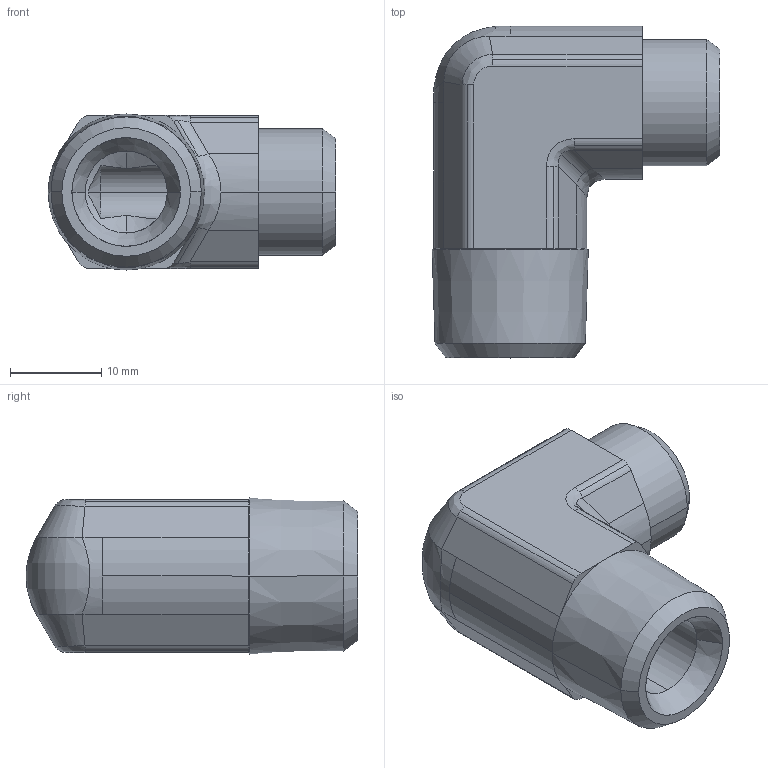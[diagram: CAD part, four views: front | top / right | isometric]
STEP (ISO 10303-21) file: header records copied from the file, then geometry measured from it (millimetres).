
FILE_DESCRIPTION((''),'2;1');
FILE_NAME('102026.stp','2007-10-30T16:36:33',(''),(''),'AutoCAD STEP 2000i','AutoCAD 2000i',', , ');
FILE_SCHEMA(('CONFIG_CONTROL_DESIGN'));
Length unit declared in the file: millimetre
Products named in the file (2): 102026.0; 3090#0
Assembly tree (1 placements, depth 2):
  102026.0
    3090#0
Bounding box: 31.56 x 36.4 x 17.12 mm (x, y, z)
Volume: 8253.9 mm3; surface area: 4185 mm2
Topology: 1 solids, 1 shells, 89 faces, 216 edges, 131 vertices
Faces by surface type: cylinder 36, plane 22, cone 17, bspline 14
Entity records: 3503 total; most frequent: CARTESIAN_POINT 1305, DIRECTION 461, ORIENTED_EDGE 432, EDGE_CURVE 216, AXIS2_PLACEMENT_3D 188, VERTEX_POINT 131, CIRCLE 101, EDGE_LOOP 93
